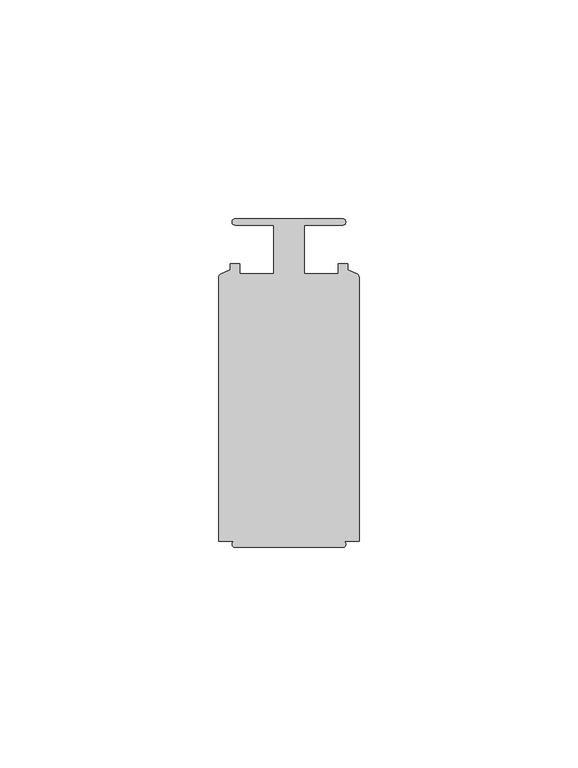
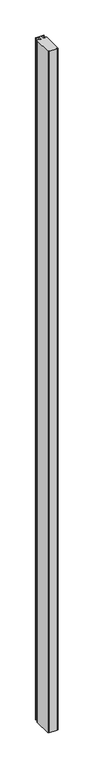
"""IFC4 building model written with IfcOpenShell, lengths in millimetres: member geometry, Прямоугольный импост : 2-AMG-1-Профиль 26Х75 Средний."""

from ifc_helpers import new_model, si_unit, point, frame, frame_2d, origin, place, context, project, spatial, polyline, circle_curve, trimmed, segment, composite_curve, outline, extrude, source, transform, mapped, element, save


def member_4342452b(model_context):
    return source(origin(), model_context, "Body", "SweptSolid", [
        extrude(outline(composite_curve([segment(trimmed(circle_curve(frame_2d((12.2976562, 36.8)), 0.7), [point((12.2976562, 37.5))], [point((12.2976562, 36.1))], False, "CARTESIAN"), True, "CONTINUOUS"), segment(polyline([(12.2976562, 36.1), (3.4976562, 36.1), (3.4976562, 25.0), (11.2193767, 25.0), (11.2193767, 27.25), (13.4446403, 27.25), (13.4446403, 25.836597), (15.5172539, 24.9333875)]), True, "CONTINUOUS"), segment(trimmed(circle_curve(frame_2d((15.1976562, 24.2)), 0.8), [point((15.5172539, 24.9333875))], [point((15.9976562, 24.2))], False, "CARTESIAN"), True, "CONTINUOUS"), segment(polyline([(15.9976562, 24.2), (15.9976562, -36.1), (12.295789, -36.1)]), True, "CONTINUOUS"), segment(trimmed(circle_curve(frame_2d((12.295789, -36.8)), 0.7), [point((12.295789, -36.1))], [point((12.295789, -37.5))], False, "CARTESIAN"), True, "CONTINUOUS"), segment(polyline([(12.295789, -37.5), (-12.3004766, -37.5)]), True, "CONTINUOUS"), segment(trimmed(circle_curve(frame_2d((-12.3004766, -36.8)), 0.7), [point((-12.3004766, -37.5))], [point((-12.3004766, -36.1))], False, "CARTESIAN"), True, "CONTINUOUS"), segment(polyline([(-12.3004766, -36.1), (-16.0023438, -36.1), (-16.0023438, 24.2)]), True, "CONTINUOUS"), segment(trimmed(circle_curve(frame_2d((-15.2023438, 24.2)), 0.8), [point((-16.0023438, 24.2))], [point((-15.5219415, 24.9333875))], False, "CARTESIAN"), True, "CONTINUOUS"), segment(polyline([(-15.5219415, 24.9333875), (-13.4493278, 25.836597), (-13.4493278, 27.25), (-11.2993767, 27.25), (-11.2993767, 25.0), (-3.5023438, 25.0), (-3.5023438, 36.1), (-12.3023438, 36.1)]), True, "CONTINUOUS"), segment(trimmed(circle_curve(frame_2d((-12.3023438, 36.8)), 0.7), [point((-12.3023438, 36.1))], [point((-12.3023438, 37.5))], False, "CARTESIAN"), True, "CONTINUOUS"), segment(polyline([(-12.3023438, 37.5), (12.2976562, 37.5)]), True, "CONTINUOUS")], self_intersect=False)), frame((0.0, 0.0, -2321.9976562), z_axis=(0.0, 0.0, 1.0), x_axis=(1.0, 0.0, 0.0)), (0.0, 0.0, 1.0), 2321.9976562),
    ])


if __name__ == "__main__":
    model = new_model("IFC4")
    model_context = context("Model", 3, world=origin())
    ifc_project = project(units=[si_unit("LENGTHUNIT", "METRE", prefix="MILLI")], contexts=[model_context])
    site = spatial("IfcSite", under=ifc_project)
    building = spatial("IfcBuilding", under=site)
    placement = place(None, origin())
    member_shape = member_4342452b(model_context)
    element("IfcMember", 1, ObjectType="Прямоугольный импост : 2-AMG-1-Профиль 26Х75 Средний", at=placement, inside=building, context=model_context, shape_type="MappedRepresentation", body=[
        mapped(member_shape, transform((0.0, 0.0, 0.0), x_axis=(1.0, 0.0, 0.0), y_axis=(0.0, 1.0, 0.0), z_axis=(0.0, 0.0, 1.0))),
    ])
    save(model, "model.ifc")
